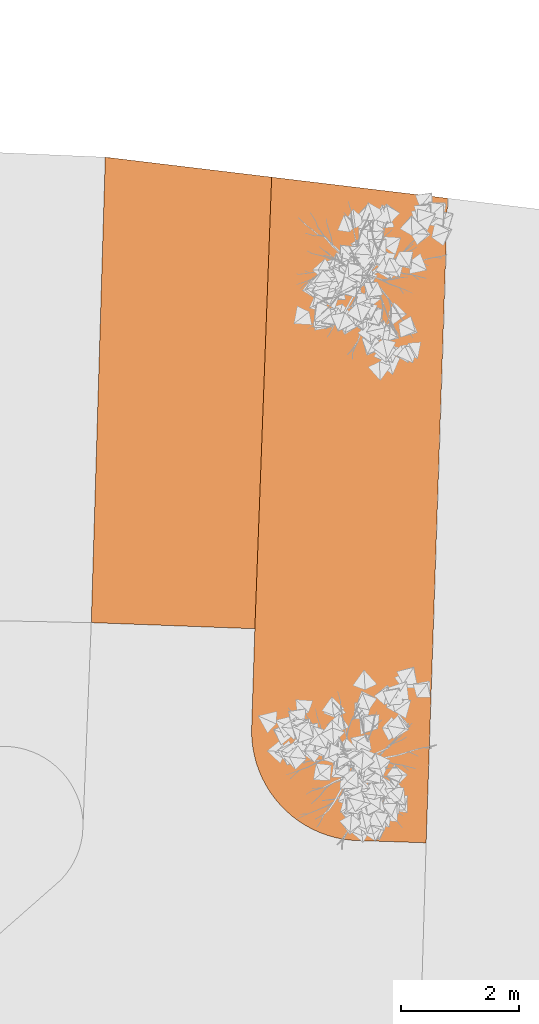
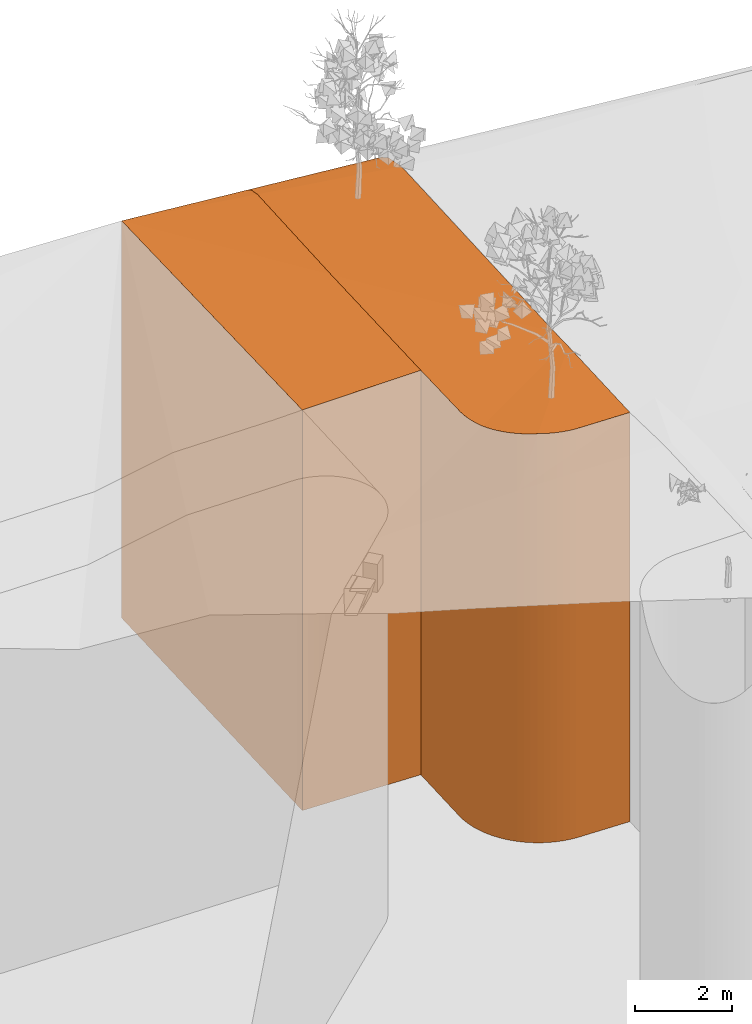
# One storey, part 232 of 246: 2 proxies.
"""IFC2X3 building model written with IfcOpenShell, lengths in millimetres."""

from ifc_helpers import new_model, entity, si_unit, converted_unit, derived_unit, money_unit, direction, frame, origin_with_axes, place, context, subcontext, project, spatial, faceted_brep, material, type_object, element, save


model = new_model("IFC2X3")

# Units and contexts
model_context = context("Model", 3, precision=0.01, world=origin_with_axes(), true_north=direction((0.0, 1.0)))
body_context = subcontext(model_context, "Body", "Model", "MODEL_VIEW")
ifc_project = project(units=[si_unit("LENGTHUNIT", "METRE", prefix="MILLI"), si_unit("AREAUNIT", "SQUARE_METRE"), si_unit("VOLUMEUNIT", "CUBIC_METRE"), converted_unit("PLANEANGLEUNIT", "DEGREE", entity("IfcPlaneAngleMeasure", 0.0174532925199), si_unit("PLANEANGLEUNIT", "RADIAN"), dimensions=[0, 0, 0, 0, 0, 0, 0]), si_unit("SOLIDANGLEUNIT", "STERADIAN"), money_unit("EUR"), converted_unit("TIMEUNIT", "Year", entity("IfcTimeMeasure", 31556926.0), si_unit("TIMEUNIT", "SECOND"), dimensions=[0, 0, 1, 0, 0, 0, 0]), si_unit("MASSUNIT", "GRAM", prefix="KILO"), si_unit("THERMODYNAMICTEMPERATUREUNIT", "DEGREE_CELSIUS"), si_unit("LUMINOUSINTENSITYUNIT", "LUMEN"), si_unit("ENERGYUNIT", "JOULE", prefix="MEGA"), derived_unit("THERMALCONDUCTANCEUNIT", [(si_unit("POWERUNIT", "WATT"), 1), (si_unit("LENGTHUNIT", "METRE"), -1), (si_unit("THERMODYNAMICTEMPERATUREUNIT", "KELVIN"), -1)]), derived_unit("SPECIFICHEATCAPACITYUNIT", [(si_unit("ENERGYUNIT", "JOULE"), 1), (si_unit("MASSUNIT", "GRAM", prefix="KILO"), -1), (si_unit("THERMODYNAMICTEMPERATUREUNIT", "KELVIN"), -1)]), derived_unit("MASSDENSITYUNIT", [(si_unit("MASSUNIT", "GRAM", prefix="KILO"), 1), (si_unit("VOLUMEUNIT", "CUBIC_METRE"), -1)])], contexts=[model_context])

# Site, building, storey
site_placement = place(None, origin_with_axes())
site = spatial("IfcSite", under=ifc_project, at=site_placement, Name="L.Koidula tn 11b", CompositionType="ELEMENT")
building_placement = place(site_placement, origin_with_axes())
building = spatial("IfcBuilding", under=site, at=building_placement, Name="Rakvere Riigigümnaasium", CompositionType="ELEMENT")
storey_placement = place(building_placement, origin_with_axes())
storey = spatial("IfcBuildingStorey", under=building, at=storey_placement, Name="1.korrus 0,00", CompositionType="ELEMENT", Elevation=0.0)

# Proxies
ifc_material_1 = material(Name="Roheala")
building_element_proxy_type_1 = type_object("IfcBuildingElementProxyType", Name="Roheala", PredefinedType="NOTDEFINED")
proxy_1_placement = place(storey_placement, frame((36662.1468342, 100237.70994, -10000.0), z_axis=(0.0, 0.0, 1.0), x_axis=(1.0, 0.0, 0.0)))
element("IfcBuildingElementProxy", 1, at=proxy_1_placement, inside=storey, type_object=building_element_proxy_type_1, material=ifc_material_1, Name="Roheala", context=body_context, shape_type="Brep", body=[
    faceted_brep([(338.365990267, 11239.6211148, 10000.0), (3309.32111545, 10882.5441068, 10000.0), (3309.32111548, 10882.5441071, 0.0), (338.365990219, 11239.6211144, 0.0), (3298.87960644, 10569.252591, 10183.8197663), (332.70411186, 11087.4645645, 10089.3173909), (3036.46585623, 2695.67787123, 10300.0), (2946.62319077, 0.0, 10300.0), (2946.62319077, 0.0, 0.0), (3280.07662584, 10005.0798959, 10312.2611783), (3055.41648337, 3264.28061659, 10289.1862891), (3040.95387629, 2830.33835008, 10293.8722314), (54.6302342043, 3614.54495207, 0.0), (1744.68099763, 41.1598525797, 0.0), (1687.9841651, 43.9983964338, 0.0), (1552.23063948, 60.9997597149, 0.0), (1418.10342685, 87.9804362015, 0.0), (1286.33508353, 124.793066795, 0.0), (1157.64528252, 171.236593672, 0.0), (1032.73688289, 227.057358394, 0.0), (912.292091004, 291.950487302, 0.0), (796.968734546, 365.561556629, 0.0), (687.3966697, 447.488528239, 0.0), (584.174341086, 537.283945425, 0.0), (487.865513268, 634.457376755, 0.0), (398.996191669, 738.478094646, 0.0), (318.051749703, 848.777974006, 0.0), (245.474277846, 964.754595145, 0.0), (181.660169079, 1085.77453397, 0.0), (126.957953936, 1211.17682156, 0.0), (81.6663969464, 1340.27655408, 0.0), (46.0328648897, 1472.36863357, 0.0), (20.2519757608, 1606.73161891, 0.0), (4.46453583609, 1742.63166605, 0.0), (-1.24322936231, 1879.32653606, 0.0), (54.6302342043, 3614.54495207, 10181.8852445), (201.356070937, 7557.63515608, 10139.8316996), (322.514228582, 10813.6230256, 10151.6694224), (926.118881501, 284.500902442, 10300.0), (1032.73688289, 227.057358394, 10300.0), (1157.64528252, 171.236593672, 10300.0), (1286.33508353, 124.793066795, 10300.0), (1418.10342685, 87.9804362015, 10300.0), (1552.23063948, 60.9997597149, 10300.0), (1687.9841651, 43.9983964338, 10300.0), (1744.68099763, 41.1598525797, 10300.0), (-1.24322936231, 1879.32653606, 10200.6903726), (4.46453583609, 1742.63166605, 10202.5191704), (20.2519757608, 1606.73161891, 10204.684848), (46.0328648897, 1472.36863357, 10207.1755771), (81.6663969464, 1340.27655408, 10209.9777544), (126.957953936, 1211.17682156, 10213.0760753), (128.03960951, 1208.69717639, 10213.1428612), (181.660169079, 1085.77453397, 10221.8561378), (245.474277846, 964.754595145, 10231.0303681), (318.051749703, 848.777974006, 10240.4396781), (398.996191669, 738.478094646, 10250.0326773), (487.865513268, 634.457376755, 10259.756972), (584.174341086, 537.283945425, 10269.5594516), (687.3966697, 447.488528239, 10279.3865783), (796.968734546, 365.561556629, 10289.1846798), (912.292091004, 291.950487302, 10298.9002422)], [[[0, 1, 2, 3]], [[4, 1, 0, 5]], [[6, 7, 8, 2, 1, 4, 9, 10, 11]], [[12, 3, 2, 8, 13, 14, 15, 16, 17, 18, 19, 20, 21, 22, 23, 24, 25, 26, 27, 28, 29, 30, 31, 32, 33, 34]], [[5, 0, 3, 12, 35, 36, 37]], [[9, 4, 5, 37]], [[7, 6, 38, 39, 40, 41, 42, 43, 44, 45]], [[7, 45, 13, 8]], [[10, 9, 37, 36]], [[11, 10, 36, 35, 46, 47, 48, 49, 50, 51, 52]], [[6, 11, 52, 53, 54, 55, 56, 57, 58, 59, 60, 61, 38]], [[45, 44, 14, 13]], [[44, 43, 15, 14]], [[43, 42, 16, 15]], [[42, 41, 17, 16]], [[41, 40, 18, 17]], [[40, 39, 19, 18]], [[38, 61, 20, 19, 39]], [[61, 60, 21, 20]], [[60, 59, 22, 21]], [[59, 58, 23, 22]], [[58, 57, 24, 23]], [[57, 56, 25, 24]], [[56, 55, 26, 25]], [[55, 54, 27, 26]], [[54, 53, 28, 27]], [[52, 51, 29, 28, 53]], [[51, 50, 30, 29]], [[50, 49, 31, 30]], [[49, 48, 32, 31]], [[48, 47, 33, 32]], [[47, 46, 34, 33]], [[46, 35, 12, 34]]]),
])
ifc_material_2 = material(Name="Kruus")
building_element_proxy_type_2 = type_object("IfcBuildingElementProxyType", Name="Kruus", PredefinedType="NOTDEFINED")
proxy_2_placement = place(storey_placement, frame((33955.1179592, 103852.254892, -10000.0), z_axis=(0.0, 0.0, 1.0), x_axis=(1.0, 0.0, 0.0)))
element("IfcBuildingElementProxy", 2, at=proxy_2_placement, inside=storey, type_object=building_element_proxy_type_2, material=ifc_material_2, Name="Olemasolevad kõnniteed", context=body_context, shape_type="Brep", body=[
    faceted_brep([(236.300212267, 7962.69927438, 10000.0), (3045.39486527, 7625.07616276, 10000.0), (3045.39486522, 7625.07616235, 0.0), (236.300210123, 7962.69927426, 0.0), (3039.73298686, 7472.91961248, 10089.3173909), (2908.38494593, 3943.09020401, 10139.8316996), (2761.6591092, 0.0, 10181.8852445), (2761.6591092, 0.0, 0.0), (3029.54310358, 7199.07807355, 10151.6694224), (0.0, 103.358427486, 0.0), (0.0, 103.358427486, 10085.7504477)], [[[0, 1, 2, 3]], [[4, 1, 0]], [[5, 6, 7, 2, 1, 4, 8]], [[7, 9, 3, 2]], [[10, 0, 3, 9]], [[8, 4, 0]], [[6, 5, 0, 10]], [[6, 10, 9, 7]], [[5, 8, 0]]]),
])

save(model, "model.ifc")
